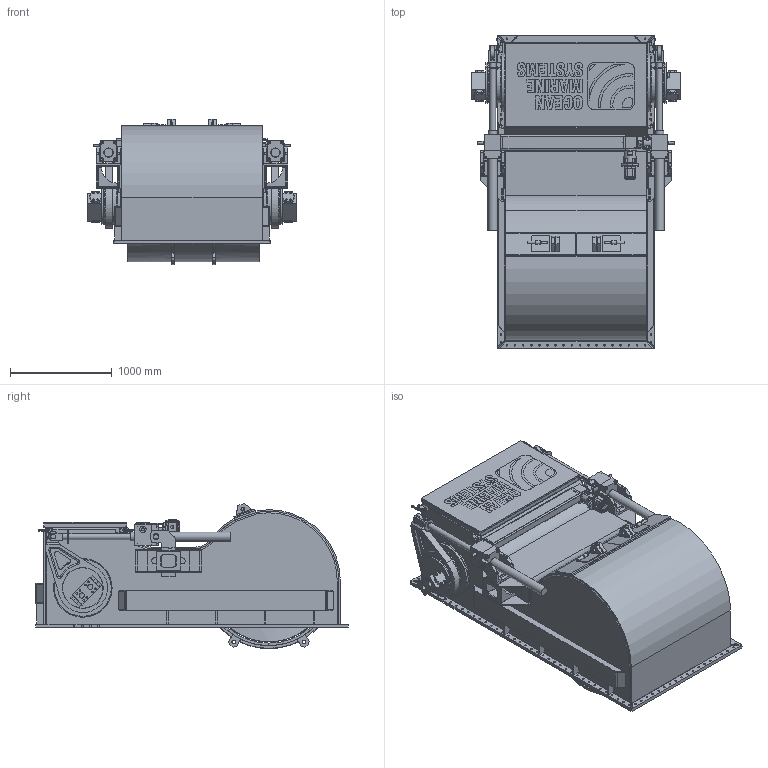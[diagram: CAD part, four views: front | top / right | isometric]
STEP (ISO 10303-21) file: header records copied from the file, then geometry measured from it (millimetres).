
FILE_DESCRIPTION(/* description */ (''),/* implementation_level */ '2;1');
FILE_NAME(/* name */ 'Q:\THRUSTERS\THRUSTER SALES & SUPPORT DOCS\THRUSTER Sales\H-S\H-1200-S\H-1200-S Retracted.stp',/* time_stamp */ '2021-01-26T13:08:12+00:00',/* author */ ('Barney.Webborn'),/* organization */ (''),/* preprocessor_version */ 'ST-DEVELOPER v17.2',/* originating_system */ 'Autodesk Inventor 2019',/* authorisation */ '');
FILE_SCHEMA (('AUTOMOTIVE_DESIGN { 1 0 10303 214 3 1 1 }'));
Length unit declared in the file: millimetre
Products named in the file (1): H-1200-S_Shrinkwrap_1
Bounding box: 2064 x 3076.5 x 1429.09 mm (x, y, z)
Volume: 629086916.4 mm3; surface area: 66589419.4 mm2
Topology: 13 solids, 13 shells, 6404 faces, 17322 edges, 11086 vertices
Faces by surface type: plane 3149, cylinder 1483, bspline 1179, cone 397, torus 148, sphere 48
Full cylindrical faces by diameter (mm): 3 x12, 7.2 x4, 8 x4, 10 x2, 12 x2, 15.8 x16, 16 x20, 16.5 x12, 16.75 x24, 17 x108, 17.29 x8, 17.5 x68, 18.376 x4, 20.5 x32, 21 x16, 24 x4, 25 x6, 25.5 x1, 26 x8, 26.25 x2, 28 x2, 28.5 x1, 29.425 x1, 30 x12, 30.75 x2, 31.25 x3, 31.42 x1, 31.67 x2, 32 x16, 32.195 x8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
Entity records: 304742 total; most frequent: CARTESIAN_POINT 142125, ORIENTED_EDGE 34284, DIRECTION 29902, EDGE_CURVE 17142, VERTEX_POINT 11086, AXIS2_PLACEMENT_3D 10213, LINE 9476, VECTOR 9476
